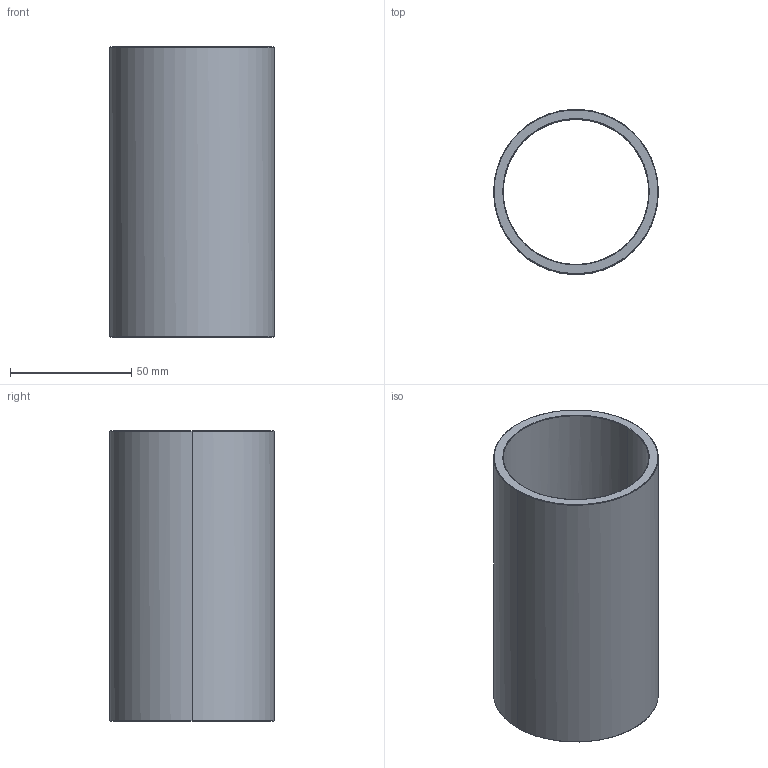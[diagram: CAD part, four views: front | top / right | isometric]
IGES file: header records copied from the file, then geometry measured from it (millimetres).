
Start section: Write IGES format                                    datakit 2008 (c)
Global section: file name: Unknown; native system: DATAKIT Converter; preprocessor: Unknown; author: Unknown; organization: Unknown; date: 950613.180003; units: millimetre
Bounding box: 68 x 67.86 x 120 mm (x, y, z)
Surface area: 49769.1 mm2 (no closed solid volume)
Topology: 0 solids, 0 shells, 14 faces, 56 edges, 56 vertices
Faces by surface type: revolution 12, bspline 2
